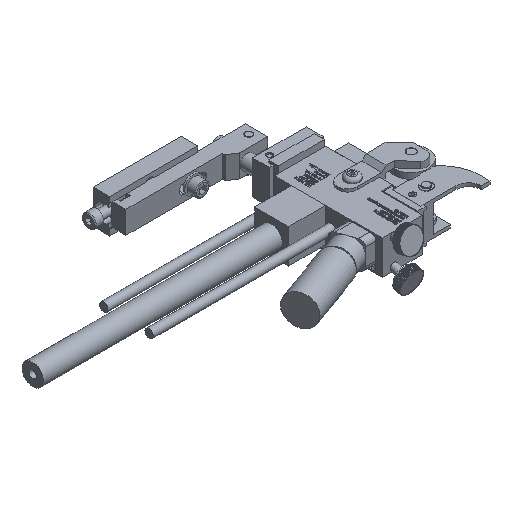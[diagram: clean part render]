
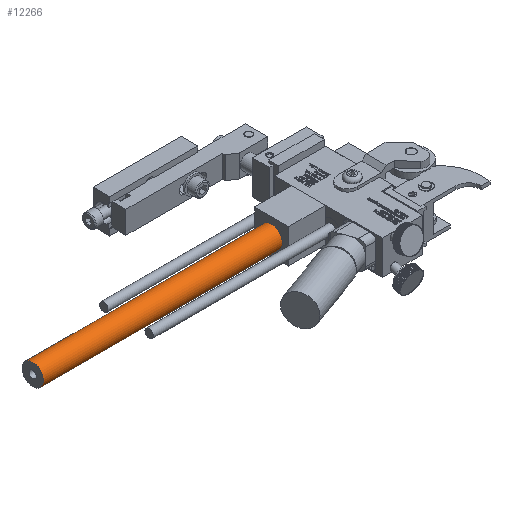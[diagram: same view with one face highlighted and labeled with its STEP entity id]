
A CAD part, isometric view. The second image highlights one B-rep face of the part: STEP entity #12266.
In plain terms, the highlighted cylindrical face has radius 5.969 mm (diameter 11.938 mm), a full revolution.
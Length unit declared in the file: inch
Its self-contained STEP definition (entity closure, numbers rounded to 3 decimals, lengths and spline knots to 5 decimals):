
#12239=CARTESIAN_POINT('',(-1.4995,0.8125,0.375));
#12240=DIRECTION('',(-1.0,0.,0.));
#12241=DIRECTION('',(0.0,0.0,-1.0));
#12242=AXIS2_PLACEMENT_3D('',#12239,#12240,#12241);
#12243=CYLINDRICAL_SURFACE('',#12242,0.235);
#12244=CARTESIAN_POINT('',(-6.7495,0.8125,0.61));
#12245=VERTEX_POINT('',#12244);
#12246=CARTESIAN_POINT('',(-6.7495,0.8125,0.375));
#12247=DIRECTION('',(1.0,0.0,0.0));
#12248=DIRECTION('',(0.0,0.0,-1.0));
#12249=AXIS2_PLACEMENT_3D('',#12246,#12247,#12248);
#12250=CIRCLE('',#12249,0.235);
#12251=EDGE_CURVE('',#12245,#12245,#12250,.T.);
#12252=ORIENTED_EDGE('',*,*,#12251,.T.);
#12253=EDGE_LOOP('',(#12252));
#12254=FACE_OUTER_BOUND('',#12253,.T.);
#12255=CARTESIAN_POINT('',(-1.4995,0.8125,0.61));
#12256=VERTEX_POINT('',#12255);
#12257=CARTESIAN_POINT('',(-1.4995,0.8125,0.375));
#12258=DIRECTION('',(1.0,0.0,0.0));
#12259=DIRECTION('',(0.0,0.0,-1.0));
#12260=AXIS2_PLACEMENT_3D('',#12257,#12258,#12259);
#12261=CIRCLE('',#12260,0.235);
#12262=EDGE_CURVE('',#12256,#12256,#12261,.T.);
#12263=ORIENTED_EDGE('',*,*,#12262,.F.);
#12264=EDGE_LOOP('',(#12263));
#12265=FACE_BOUND('',#12264,.T.);
#12266=ADVANCED_FACE('',(#12254,#12265),#12243,.T.);
